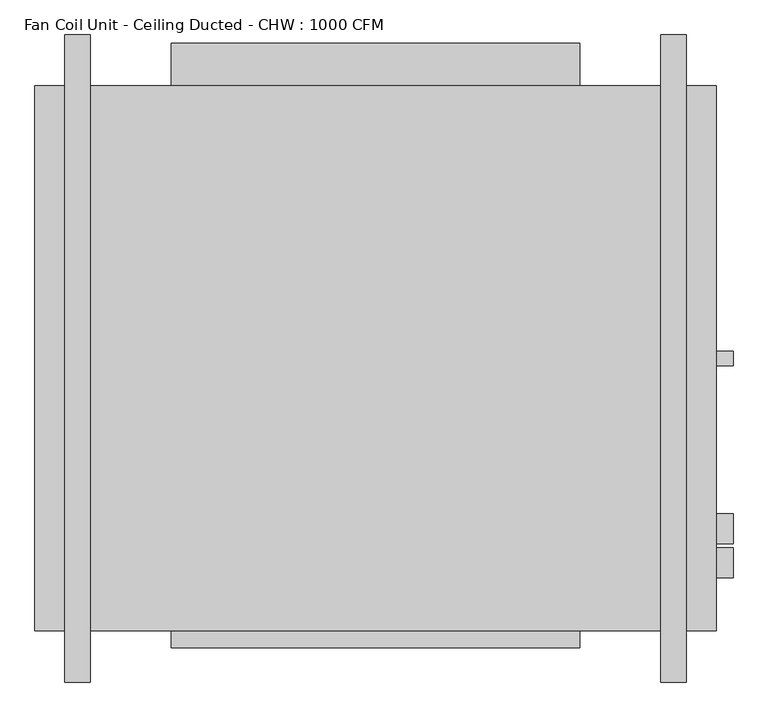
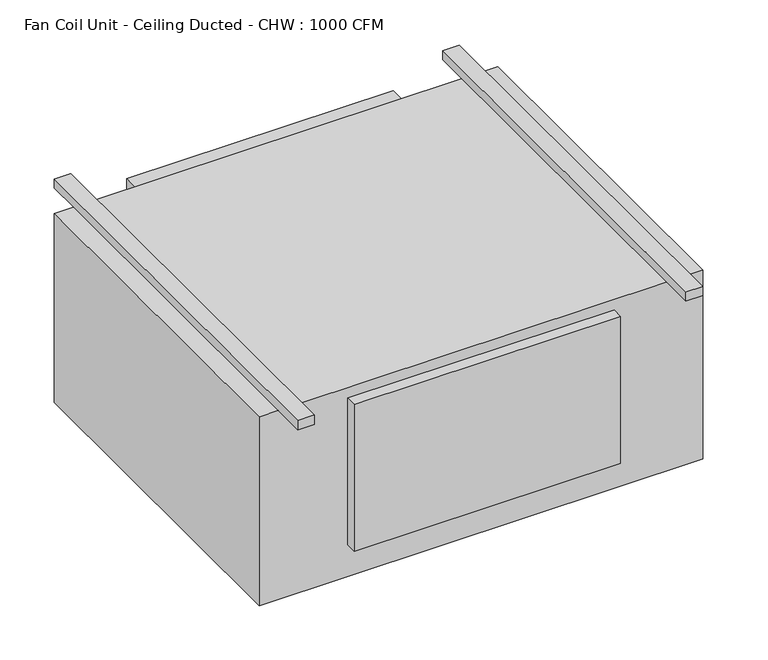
"""IFC4 building model written with IfcOpenShell, lengths in millimetres: proxy geometry, Fan Coil Unit - Ceiling Ducted - CHW : 1000 CFM."""

from ifc_helpers import new_model, si_unit, frame, origin, place, context, project, spatial, circle_curve, source, transform, mapped, element, save
from ifc_brep_helpers import plane_surface, cylinder_surface, advanced_brep


def fan_coil_unit_ceiling_ducted_chw_1000_cfm_fb4dfb87(model_context):
    return source(origin(), model_context, "Body", "AdvancedBrep", [
        advanced_brep(
        [(82.55, 889.0, 479.425), (44.45, 889.0, 479.425), (44.45, -76.2, 479.425), (82.55, -76.2, 479.425), (82.55, -76.2, 457.2), (44.45, -76.2, 457.2), (44.45, 0.0, 457.2), (82.55, 0.0, 457.2), (44.45, 889.0, 457.2), (82.55, 889.0, 457.2), (82.55, 812.8, 457.2), (44.45, 812.8, 457.2), (971.55, 889.0, 479.425), (933.45, 889.0, 479.425), (933.45, -76.2, 479.425), (971.55, -76.2, 479.425), (971.55, -76.2, 457.2), (933.45, -76.2, 457.2), (933.45, 0.0, 457.2), (971.55, 0.0, 457.2), (933.45, 889.0, 457.2), (971.55, 889.0, 457.2), (971.55, 812.8, 457.2), (933.45, 812.8, 457.2), (1041.4, 130.175, 381.0), (1041.4, 174.625, 381.0), (1016.0, 130.175, 381.0), (1016.0, 174.625, 381.0), (1041.4, 79.375, 101.6), (1041.4, 123.825, 101.6), (1016.0, 79.375, 101.6), (1016.0, 123.825, 101.6), (1041.4, 395.2875, 38.1), (1041.4, 417.5125, 38.1), (1016.0, 395.2875, 38.1), (1016.0, 417.5125, 38.1), (0.0, 812.8, 457.2), (0.0, 0.0, 457.2), (1016.0, 0.0, 457.2), (1016.0, 812.8, 457.2), (1016.0, 812.8, 0.0), (1016.0, 0.0, 0.0), (0.0, 0.0, 0.0), (0.0, 812.8, 0.0), (812.8, 812.8, 431.8), (203.2, 812.8, 431.8), (203.2, 812.8, 76.2), (812.8, 812.8, 76.2), (203.2, 0.0, 431.8), (812.8, 0.0, 431.8), (812.8, 0.0, 76.2), (203.2, 0.0, 76.2), (812.8, 876.3, 431.8), (203.2, 876.3, 431.8), (812.8, 876.3, 76.2), (203.2, 876.3, 76.2), (203.2, -25.4, 431.8), (812.8, -25.4, 431.8), (812.8, -25.4, 76.2), (203.2, -25.4, 76.2)],
        [
            (0, 1),
            (1, 2),
            (2, 3),
            (3, 0),
            (4, 5),
            (5, 6),
            (6, 7),
            (7, 4),
            (8, 9),
            (9, 10),
            (10, 11),
            (11, 8),
            (0, 9),
            (8, 1),
            (11, 6),
            (5, 2),
            (4, 3),
            (7, 10),
            (12, 13),
            (13, 14),
            (14, 15),
            (15, 12),
            (16, 17),
            (17, 18),
            (18, 19),
            (19, 16),
            (20, 21),
            (21, 22),
            (22, 23),
            (23, 20),
            (12, 21),
            (20, 13),
            (23, 18),
            (17, 14),
            (16, 15),
            (19, 22),
            (24, 25, circle_curve(frame((1041.4, 152.4, 381.0), z_axis=(1.0, 0.0, 0.0), x_axis=(0.0, 1.0, 0.0)), 22.225)),
            (25, 24, circle_curve(frame((1041.4, 152.4, 381.0), z_axis=(1.0, 0.0, 0.0), x_axis=(0.0, 1.0, 0.0)), 22.225)),
            (24, 26),
            (26, 27, circle_curve(frame((1016.0, 152.4, 381.0), z_axis=(1.0, 0.0, 0.0), x_axis=(0.0, 1.0, 0.0)), 22.225)),
            (27, 25),
            (27, 26, circle_curve(frame((1016.0, 152.4, 381.0), z_axis=(1.0, 0.0, 0.0), x_axis=(0.0, 1.0, 0.0)), 22.225)),
            (28, 29, circle_curve(frame((1041.4, 101.6, 101.6), z_axis=(1.0, 0.0, 0.0), x_axis=(0.0, 1.0, 0.0)), 22.225)),
            (29, 28, circle_curve(frame((1041.4, 101.6, 101.6), z_axis=(1.0, 0.0, 0.0), x_axis=(0.0, 1.0, 0.0)), 22.225)),
            (28, 30),
            (30, 31, circle_curve(frame((1016.0, 101.6, 101.6), z_axis=(1.0, 0.0, 0.0), x_axis=(0.0, 1.0, 0.0)), 22.225)),
            (31, 29),
            (31, 30, circle_curve(frame((1016.0, 101.6, 101.6), z_axis=(1.0, 0.0, 0.0), x_axis=(0.0, 1.0, 0.0)), 22.225)),
            (32, 33, circle_curve(frame((1041.4, 406.4, 38.1), z_axis=(1.0, 0.0, 0.0), x_axis=(0.0, 1.0, 0.0)), 11.1125)),
            (33, 32, circle_curve(frame((1041.4, 406.4, 38.1), z_axis=(1.0, 0.0, 0.0), x_axis=(0.0, 1.0, 0.0)), 11.1125)),
            (32, 34),
            (34, 35, circle_curve(frame((1016.0, 406.4, 38.1), z_axis=(1.0, 0.0, 0.0), x_axis=(0.0, 1.0, 0.0)), 11.1125)),
            (35, 33),
            (35, 34, circle_curve(frame((1016.0, 406.4, 38.1), z_axis=(1.0, 0.0, 0.0), x_axis=(0.0, 1.0, 0.0)), 11.1125)),
            (36, 37),
            (37, 6),
            (11, 36),
            (38, 39),
            (39, 22),
            (19, 38),
            (23, 10),
            (7, 18),
            (40, 41),
            (41, 42),
            (42, 43),
            (43, 40),
            (43, 36),
            (39, 40),
            (44, 45),
            (45, 46),
            (46, 47),
            (47, 44),
            (42, 37),
            (41, 38),
            (48, 49),
            (49, 50),
            (50, 51),
            (51, 48),
            (52, 53),
            (53, 45),
            (44, 52),
            (54, 47),
            (46, 55),
            (55, 54),
            (52, 54),
            (55, 53),
            (48, 56),
            (56, 57),
            (57, 49),
            (50, 58),
            (58, 59),
            (59, 51),
            (59, 56),
            (58, 57),
        ],
        [
            plane_surface(frame((44.45, 889.0, 479.425), z_axis=(0.0, 0.0, 1.0), x_axis=(-1.0, 0.0, 0.0))),
            plane_surface(frame((44.45, 889.0, 457.2), z_axis=(0.0, 0.0, -1.0), x_axis=(1.0, 0.0, 0.0))),
            plane_surface(frame((82.55, 889.0, 479.425), z_axis=(0.0, 1.0, 0.0), x_axis=(0.0, 0.0, -1.0))),
            plane_surface(frame((44.45, 889.0, 479.425), z_axis=(-1.0, 0.0, 0.0), x_axis=(0.0, 0.0, -1.0))),
            plane_surface(frame((44.45, -76.2, 479.425), z_axis=(0.0, -1.0, 0.0), x_axis=(0.0, 0.0, -1.0))),
            plane_surface(frame((82.55, -76.2, 479.425), z_axis=(1.0, 0.0, 0.0), x_axis=(0.0, 0.0, -1.0))),
            plane_surface(frame((933.45, 889.0, 479.425), z_axis=(0.0, 0.0, 1.0), x_axis=(-1.0, 0.0, 0.0))),
            plane_surface(frame((933.45, 889.0, 457.2), z_axis=(0.0, 0.0, -1.0), x_axis=(1.0, 0.0, 0.0))),
            plane_surface(frame((971.55, 889.0, 479.425), z_axis=(0.0, 1.0, 0.0), x_axis=(0.0, 0.0, -1.0))),
            plane_surface(frame((933.45, 889.0, 479.425), z_axis=(-1.0, 0.0, 0.0), x_axis=(0.0, 0.0, -1.0))),
            plane_surface(frame((933.45, -76.2, 479.425), z_axis=(0.0, -1.0, 0.0), x_axis=(0.0, 0.0, -1.0))),
            plane_surface(frame((971.55, -76.2, 479.425), z_axis=(1.0, 0.0, 0.0), x_axis=(0.0, 0.0, -1.0))),
            plane_surface(frame((1041.4, 174.625, 381.0), z_axis=(1.0, 0.0, 0.0), x_axis=(0.0, 0.0, 1.0))),
            cylinder_surface(frame((1016.0, 152.4, 381.0), z_axis=(1.0, 0.0, 0.0), x_axis=(0.0, 1.0, 0.0)), 22.225),
            plane_surface(frame((1041.4, 123.825, 101.6), z_axis=(1.0, 0.0, 0.0), x_axis=(0.0, 0.0, 1.0))),
            cylinder_surface(frame((1016.0, 101.6, 101.6), z_axis=(1.0, 0.0, 0.0), x_axis=(0.0, 1.0, 0.0)), 22.225),
            plane_surface(frame((1041.4, 417.5125, 38.1), z_axis=(1.0, 0.0, 0.0), x_axis=(0.0, 0.0, 1.0))),
            cylinder_surface(frame((1016.0, 406.4, 38.1), z_axis=(1.0, 0.0, 0.0), x_axis=(0.0, 1.0, 0.0)), 11.1125),
            plane_surface(frame((0.0, 812.8, 457.2), z_axis=(0.0, 0.0, 1.0), x_axis=(-1.0, 0.0, 0.0))),
            plane_surface(frame((0.0, 812.8, 0.0), z_axis=(0.0, 0.0, -1.0), x_axis=(1.0, 0.0, 0.0))),
            plane_surface(frame((1016.0, 812.8, 457.2), z_axis=(0.0, 1.0, 0.0), x_axis=(0.0, 0.0, -1.0))),
            plane_surface(frame((0.0, 812.8, 457.2), z_axis=(-1.0, 0.0, 0.0), x_axis=(0.0, 0.0, -1.0))),
            plane_surface(frame((0.0, 0.0, 457.2), z_axis=(0.0, -1.0, 0.0), x_axis=(0.0, 0.0, -1.0))),
            plane_surface(frame((1016.0, 0.0, 457.2), z_axis=(1.0, 0.0, 0.0), x_axis=(0.0, 0.0, -1.0))),
            plane_surface(frame((203.2, 876.3, 431.8), z_axis=(0.0, 0.0, 1.0), x_axis=(-1.0, 0.0, 0.0))),
            plane_surface(frame((203.2, 876.3, 76.2), z_axis=(0.0, 0.0, -1.0), x_axis=(1.0, 0.0, 0.0))),
            plane_surface(frame((812.8, 876.3, 431.8), z_axis=(0.0, 1.0, 0.0), x_axis=(0.0, 0.0, -1.0))),
            plane_surface(frame((203.2, 876.3, 431.8), z_axis=(-1.0, 0.0, 0.0), x_axis=(0.0, 0.0, -1.0))),
            plane_surface(frame((812.8, 812.8, 431.8), z_axis=(1.0, 0.0, 0.0), x_axis=(0.0, 0.0, -1.0))),
            plane_surface(frame((203.2, 0.0, 431.8), z_axis=(0.0, 0.0, 1.0), x_axis=(-1.0, 0.0, 0.0))),
            plane_surface(frame((203.2, 0.0, 76.2), z_axis=(0.0, 0.0, -1.0), x_axis=(1.0, 0.0, 0.0))),
            plane_surface(frame((203.2, 0.0, 431.8), z_axis=(-1.0, 0.0, 0.0), x_axis=(0.0, 0.0, -1.0))),
            plane_surface(frame((203.2, -25.4, 431.8), z_axis=(0.0, -1.0, 0.0), x_axis=(0.0, 0.0, -1.0))),
            plane_surface(frame((812.8, -25.4, 431.8), z_axis=(1.0, 0.0, 0.0), x_axis=(0.0, 0.0, -1.0))),
        ],
        [
            (0, [[1, 2, 3, 4]]),
            (1, [[5, 6, 7, 8]]),
            (1, [[9, 10, 11, 12]]),
            (2, [[-1, 13, -9, 14]]),
            (3, [[-2, -14, -12, 15, -6, 16]]),
            (4, [[-3, -16, -5, 17]]),
            (5, [[-4, -17, -8, 18, -10, -13]]),
            (6, [[19, 20, 21, 22]]),
            (7, [[23, 24, 25, 26]]),
            (7, [[27, 28, 29, 30]]),
            (8, [[-19, 31, -27, 32]]),
            (9, [[-20, -32, -30, 33, -24, 34]]),
            (10, [[-21, -34, -23, 35]]),
            (11, [[-22, -35, -26, 36, -28, -31]]),
            (12, [[37, 38]]),
            (13, [[-37, 39, 40, 41]]),
            (13, [[-38, -41, 42, -39]]),
            (14, [[43, 44]]),
            (15, [[-43, 45, 46, 47]]),
            (15, [[-44, -47, 48, -45]]),
            (16, [[49, 50]]),
            (17, [[-49, 51, 52, 53]]),
            (17, [[-50, -53, 54, -51]]),
            (18, [[55, 56, -15, 57]]),
            (18, [[58, 59, -36, 60]]),
            (18, [[61, -18, 62, -33]]),
            (19, [[63, 64, 65, 66]]),
            (20, [[-66, 67, -57, -11, -61, -29, -59, 68], [69, 70, 71, 72]]),
            (21, [[-55, -67, -65, 73]]),
            (22, [[-64, 74, -60, -25, -62, -7, -56, -73], [75, 76, 77, 78]]),
            (23, [[-58, -74, -63, -68], [-40, -42], [-46, -48], [-52, -54]]),
            (24, [[79, 80, -69, 81]]),
            (25, [[82, -71, 83, 84]]),
            (26, [[-79, 85, -84, 86]]),
            (27, [[-80, -86, -83, -70]]),
            (28, [[-81, -72, -82, -85]]),
            (29, [[87, 88, 89, -75]]),
            (30, [[90, 91, 92, -77]]),
            (31, [[-87, -78, -92, 93]]),
            (32, [[-88, -93, -91, 94]]),
            (33, [[-89, -94, -90, -76]]),
        ],
    ),
    ])


if __name__ == "__main__":
    model = new_model("IFC4")
    model_context = context("Model", 3, world=origin())
    ifc_project = project(units=[si_unit("LENGTHUNIT", "METRE", prefix="MILLI")], contexts=[model_context])
    site = spatial("IfcSite", under=ifc_project)
    building = spatial("IfcBuilding", under=site)
    placement = place(None, origin())
    fan_coil_unit_ceiling_ducted_chw_1000_cfm_shape = fan_coil_unit_ceiling_ducted_chw_1000_cfm_fb4dfb87(model_context)
    element("IfcBuildingElementProxy", 1, Name="Fan Coil Unit - Ceiling Ducted - CHW : 1000 CFM", ObjectType="Fan Coil Unit - Ceiling Ducted - CHW : 1000 CFM", at=placement, inside=building, context=model_context, shape_type="MappedRepresentation", body=[
        mapped(fan_coil_unit_ceiling_ducted_chw_1000_cfm_shape, transform((0.0, 0.0, 0.0), x_axis=(1.0, 0.0, 0.0), y_axis=(0.0, 1.0, 0.0), z_axis=(0.0, 0.0, 1.0))),
    ])
    save(model, "model.ifc")
